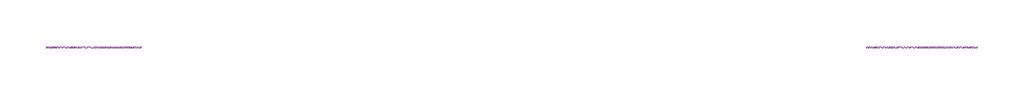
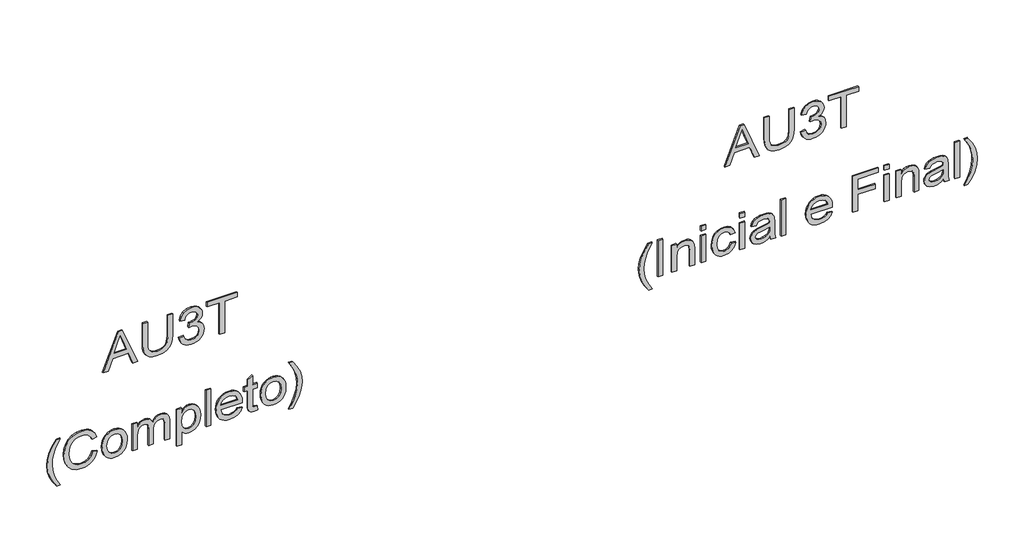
# One storey, part 3 of 14: 2 proxies.
"""IFC4 building model written with IfcOpenShell, lengths in millimetres."""

import ifcopenshell
import ifcopenshell.guid

model = None  # the IFC model being written
_history = None  # IfcOwnerHistory: only IFC2X3 demands one
_inside = {}  # id of a spatial element -> (the spatial element, [elements in it])
_under = {}  # id of a project, library or spatial element -> (it, [spatial elements below it])
_declared = {}  # id of a project -> (the project, [libraries it declares])
_typed = {}  # id of a type object -> (the type object, [elements of that type])
_made_of = {}  # id of a material, layer set ... -> (it, [elements and type objects made of it])


def new_model(schema):
    """Start an empty IFC model of exactly this schema.

    Asked for "IFC4X3", IfcOpenShell would pick the latest addendum, in which some entities
    have other attributes; the version numbers below select the first issue.
    IFC2X3 requires an IfcOwnerHistory on every rooted entity: one is made here for all.
    """
    global model, _history
    if schema == "IFC4X3":
        model = ifcopenshell.file(schema_version=(4, 3, 0, 0))
    else:
        model = ifcopenshell.file(schema=schema)
    _inside.clear()
    _under.clear()
    _declared.clear()
    _typed.clear()
    _made_of.clear()
    _history = None
    if model.schema == "IFC2X3":
        org = make("IfcOrganization", Name="unknown")
        user = make(
            "IfcPersonAndOrganization",
            ThePerson=make("IfcPerson", FamilyName="unknown"),
            TheOrganization=org,
        )
        app = make(
            "IfcApplication",
            ApplicationDeveloper=org,
            Version="unknown",
            ApplicationFullName="unknown",
            ApplicationIdentifier="unknown",
        )
        _history = make(
            "IfcOwnerHistory",
            OwningUser=user,
            OwningApplication=app,
            ChangeAction="ADDED",
            CreationDate=0,
        )
    return model


def make(cls, **values):
    """One entity of the class cls with the attributes given. An attribute that is None is left unset."""
    return model.create_entity(
        cls, **{name: value for name, value in values.items() if value is not None}
    )


def rooted(cls, **values):
    """An entity with a GlobalId (a new one), such as an element, a storey or a relation."""
    return make(cls, GlobalId=ifcopenshell.guid.new(), OwnerHistory=_history, **values)


def si_unit(unit_type, name, prefix=None):
    """IfcSIUnit, for example si_unit("LENGTHUNIT", "METRE", prefix="MILLI")."""
    return make("IfcSIUnit", UnitType=unit_type, Prefix=prefix, Name=name)


def assignment(units):
    """IfcUnitAssignment: the units of a project."""
    return None if units is None else make("IfcUnitAssignment", Units=units)


def point(xyz):
    """IfcCartesianPoint."""
    return None if xyz is None else make("IfcCartesianPoint", Coordinates=xyz)


def direction(xyz):
    """IfcDirection."""
    return None if xyz is None else make("IfcDirection", DirectionRatios=xyz)


def frame(location, z_axis=None, x_axis=None):
    """IfcAxis2Placement3D, a coordinate frame: its origin and axes. An axis left out is left unset."""
    return make(
        "IfcAxis2Placement3D",
        Location=point(location),
        Axis=direction(z_axis),
        RefDirection=direction(x_axis),
    )


def origin():
    """The frame at (0, 0, 0) with its axes left unset."""
    return frame((0.0, 0.0, 0.0))


def place(relative_to, where):
    """IfcLocalPlacement: puts the frame where relative to a parent placement (None: the world)."""
    return make(
        "IfcLocalPlacement", PlacementRelTo=relative_to, RelativePlacement=where
    )


def context(
    kind, dimensions, precision=None, world=None, true_north=None, identifier=None
):
    """IfcGeometricRepresentationContext, for example the 3D "Model" context."""
    return make(
        "IfcGeometricRepresentationContext",
        ContextIdentifier=identifier,
        ContextType=kind,
        CoordinateSpaceDimension=dimensions,
        Precision=precision,
        WorldCoordinateSystem=world,
        TrueNorth=true_north,
    )


def project(units=None, contexts=None):
    """IfcProject with its units and contexts."""
    return rooted(
        "IfcProject",
        Name="project",
        RepresentationContexts=contexts,
        UnitsInContext=assignment(units),
    )


def spatial(cls, under=None, at=None, **own):
    """A site, building, storey or space (cls), placed at a placement, below another one or the project."""
    s = rooted(cls, ObjectPlacement=at, **own)
    if under is not None:
        _under.setdefault(under.id(), (under, []))[1].append(s)
    return s


def polyline(points):
    """IfcPolyline through the points."""
    return make("IfcPolyline", Points=[point(p) for p in points])


def outline(outer, holes=None, kind="AREA"):
    """IfcArbitraryClosedProfileDef: a profile drawn as a closed curve; with holes, ...WithVoids."""
    if holes is None:
        return make("IfcArbitraryClosedProfileDef", ProfileType=kind, OuterCurve=outer)
    return make(
        "IfcArbitraryProfileDefWithVoids",
        ProfileType=kind,
        OuterCurve=outer,
        InnerCurves=holes,
    )


def extrude(swept, where, along, depth):
    """IfcExtrudedAreaSolid: the profile swept, set in the frame where, extruded along a direction by depth."""
    return make(
        "IfcExtrudedAreaSolid",
        SweptArea=swept,
        Position=where,
        ExtrudedDirection=direction(along),
        Depth=depth,
    )


def shape(context_of_items, identifier, shape_type, items):
    """IfcShapeRepresentation: the items that make up one representation, for example the "Body"."""
    return make(
        "IfcShapeRepresentation",
        ContextOfItems=context_of_items,
        RepresentationIdentifier=identifier,
        RepresentationType=shape_type,
        Items=items,
    )


def made_of(thing, what):
    """Note that an element or type object is made of a material, layer set ...; save() writes the relation."""
    if what is not None:
        _made_of.setdefault(what.id(), (what, []))[1].append(thing)
    return thing


def element(
    cls,
    number,
    at=None,
    inside=None,
    cuts=None,
    type_object=None,
    material=None,
    context=None,
    identifier="Body",
    shape_type=None,
    held_by="IfcProductDefinitionShape",
    body=None,
    shapes=None,
    **own,
):
    """One element of the class cls, such as IfcWall. Its Tag is "e" and its number.

    at: its placement. inside: the storey or other place that contains it. cuts: it is an
    opening in that element (IfcRelVoidsElement). A single representation is given by context,
    identifier, shape_type and body (its items); several are given by shapes. held_by: the class
    of the entity that holds the representations. save() writes the other relations.
    """
    e = rooted(cls, Tag="e%d" % number, ObjectPlacement=at, **own)
    if body is not None:
        shapes = [shape(context, identifier, shape_type, body)]
    if shapes is not None:
        e.Representation = make(held_by, Representations=shapes)
    if inside is not None:
        _inside.setdefault(inside.id(), (inside, []))[1].append(e)
    if cuts is not None:
        rooted(
            "IfcRelVoidsElement", RelatingBuildingElement=cuts, RelatedOpeningElement=e
        )
    if type_object is not None:
        _typed.setdefault(type_object.id(), (type_object, []))[1].append(e)
    return made_of(e, material)


def aggregate(whole, parts):
    """IfcRelAggregates: a whole, such as a stair, and the parts it consists of."""
    return rooted("IfcRelAggregates", RelatingObject=whole, RelatedObjects=parts)


def save(model, path):
    """Write the relations noted so far, then the file.

    IfcRelAggregates (storeys below a building ...), IfcRelContainedInSpatialStructure (elements
    in a storey), IfcRelDefinesByType, IfcRelAssociatesMaterial and IfcRelDeclares: one each for
    every whole, place, type object, material and project.
    """
    for whole, parts in _under.values():
        aggregate(whole, parts)
    for where, things in _inside.values():
        rooted(
            "IfcRelContainedInSpatialStructure",
            RelatedElements=things,
            RelatingStructure=where,
        )
    for kind, things in _typed.values():
        rooted("IfcRelDefinesByType", RelatedObjects=things, RelatingType=kind)
    for what, things in _made_of.values():
        rooted("IfcRelAssociatesMaterial", RelatedObjects=things, RelatingMaterial=what)
    for by, libraries in _declared.values():
        rooted("IfcRelDeclares", RelatingContext=by, RelatedDefinitions=libraries)
    model.write(path)


model = new_model("IFC4")

# Units and contexts
model_context = context("Model", 3, world=origin())
ifc_project = project(units=[si_unit("LENGTHUNIT", "METRE", prefix="MILLI")], contexts=[model_context])

# Site, building, storey
site = spatial("IfcSite", under=ifc_project)
building = spatial("IfcBuilding", under=site)
storey = spatial("IfcBuildingStorey", under=building, Name="04 - Marelli - Planta Baixa - Painéis de Vidro", Elevation=36000.0)

# Proxies
placement = place(None, origin())
element("IfcBuildingElementProxy", 1, Name="300mm Arial", ObjectType="300mm Arial", at=placement, inside=storey, context=model_context, shape_type="SweptSolid", body=[
    extrude(outline(polyline([(42065.9244535, 13310.1721595), (42065.9244535, 13349.9769914), (42160.1022443, 13384.4107462), (42160.1022443, 13508.5341313), (42065.9244535, 13543.0414625), (42065.9244535, 13582.8462944), (42367.293384, 13462.5488819), (42367.293384, 13430.469572), (42065.9244535, 13310.1721595)]), holes=[polyline([(42197.7733606, 13398.2431092), (42278.3395176, 13427.7472452), (42329.6222677, 13446.5092269), (42271.8647944, 13467.6256535), (42197.7733606, 13494.7753447), (42197.7733606, 13398.2431092)])]), frame((0.0, 8778.3159498, 0.0), z_axis=(0.0, 1.0, 0.0), x_axis=(0.0, 0.0, 1.0)), (0.0, 0.0, 1.0), 10.0),
    extrude(outline(polyline([(42367.293384, 13820.8659452), (42194.7567282, 13820.8659452), (42147.5942565, 13816.1018734), (42130.8556257, 13810.1467836), (42118.6787316, 13801.8096579), (42110.0197092, 13790.676629), (42103.8346931, 13776.3338297), (42098.8866803, 13738.0189199), (42101.3882779, 13713.8490728), (42108.8930706, 13693.7259277), (42121.0055853, 13678.293278), (42137.3303488, 13668.1949172), (42160.9023876, 13662.621505), (42194.7567282, 13660.7637009), (42367.293384, 13660.7637009), (42367.293384, 13623.0925846), (42193.4323531, 13623.0925846), (42150.6568741, 13625.9528671), (42117.9797559, 13634.5337147), (42093.6167707, 13649.8008175), (42075.783691, 13672.7198658), (42064.8575957, 13703.3000566), (42061.215564, 13741.5505871), (42065.4002217, 13780.6564432), (42077.9541948, 13811.4481662), (42097.176029, 13833.9809384), (42121.3642702, 13848.3099421), (42152.7170132, 13855.9802817), (42193.4323531, 13858.5370615), (42367.293384, 13858.5370615), (42367.293384, 13820.8659452)])), frame((0.0, 8778.3159498, 0.0), z_axis=(0.0, 1.0, 0.0), x_axis=(0.0, 0.0, 1.0)), (0.0, 0.0, 1.0), 10.0),
    extrude(outline(polyline([(42145.9755757, 13910.3348465), (42128.0827151, 13913.5860036), (42111.928097, 13919.660655), (42097.5117213, 13928.5588008), (42084.8335881, 13940.2804409), (42074.5007025, 13954.2599567), (42067.12007, 13969.9317297), (42062.6916905, 13987.2957599), (42061.215564, 14006.3520472), (42062.9446094, 14027.436284), (42068.1317455, 14046.6167316), (42076.7769724, 14063.8933898), (42088.88029, 14079.2662586), (42103.4668111, 14091.8846111), (42119.5616484, 14100.89772), (42137.1648019, 14106.3055853), (42156.2762716, 14108.1082071), (42183.2420218, 14104.5029635), (42205.2781533, 14093.6872329), (42221.5017493, 14076.2128381), (42231.029893, 14052.6316022), (42241.9008059, 14070.5842436), (42255.9722922, 14083.5336898), (42272.4901938, 14091.3695763), (42290.7003526, 14093.9815385), (42310.2440836, 14091.2316205), (42328.7025627, 14082.9818668), (42344.7238236, 14069.5357799), (42356.9558999, 14051.1968624), (42364.709013, 14029.4458394), (42367.293384, 14005.763436), (42362.0510656, 13972.8747856), (42346.3241103, 13945.8722472), (42321.0690113, 13926.1353782), (42287.2422618, 13915.043736), (42282.5333723, 13952.7148523), (42303.134764, 13959.3919105), (42317.8500438, 13971.1825285), (42326.6792117, 13987.332548), (42329.6222677, 14007.0878112), (42326.7068029, 14026.8062861), (42317.9604084, 14042.5516355), (42304.7626419, 14052.8707255), (42288.4930606, 14056.3104221), (42268.9585267, 14051.5647444), (42255.2365283, 14037.3277112), (42247.1247303, 14017.1493838), (42244.4207976, 13994.5798234), (42244.862256, 13988.5465586), (42207.1911397, 13984.3527039), (42211.311418, 14010.7666311), (42207.4578541, 14034.4582316), (42195.8971624, 14053.5880954), (42178.4503588, 14066.2248419), (42156.9384591, 14070.4370908), (42134.2769282, 14066.1880537), (42115.5885229, 14053.4409426), (42103.0621409, 14033.5017384), (42098.8866803, 14007.6764224), (42101.9217068, 13985.667882), (42111.0267861, 13968.7912955), (42127.0112588, 13956.4396575), (42150.6844652, 13948.0059628), (42145.9755757, 13910.3348465)])), frame((0.0, 8778.3159498, 0.0), z_axis=(0.0, 1.0, 0.0), x_axis=(0.0, 0.0, 1.0)), (0.0, 0.0, 1.0), 10.0),
    extrude(outline(polyline([(42065.9244535, 14230.5393351), (42065.9244535, 14268.2104514), (42329.6222677, 14268.2104514), (42329.6222677, 14367.0971317), (42367.293384, 14367.0971317), (42367.293384, 14131.6526548), (42329.6222677, 14131.6526548), (42329.6222677, 14230.5393351), (42065.9244535, 14230.5393351)])), frame((0.0, 8778.3159498, 0.0), z_axis=(0.0, 1.0, 0.0), x_axis=(0.0, 0.0, 1.0)), (0.0, 0.0, 1.0), 10.0),
    extrude(outline(polyline([(41249.3155348, 12945.0124911), (41249.3155348, 12973.2658283), (41297.5540614, 12944.4238799), (41345.8109821, 12923.8224882), (41394.0862969, 12911.4616532), (41442.3800058, 12907.3413748), (41480.2534572, 12909.7142137), (41517.9429677, 12916.8327303), (41575.7740173, 12938.0227332), (41635.4444769, 12973.2658283), (41635.4444769, 12945.0124911), (41584.934279, 12910.321219), (41534.2033518, 12886.0042191), (41489.4137189, 12873.7537486), (41442.600735, 12869.6702585), (41389.2210575, 12875.1333061), (41337.68079, 12891.522449), (41290.2791949, 12915.8210548), (41249.3155348, 12945.0124911)])), frame((0.0, 8778.3159498, 0.0), z_axis=(0.0, 1.0, 0.0), x_axis=(0.0, 0.0, 1.0)), (0.0, 0.0, 1.0), 10.0),
    extrude(outline(polyline([(41441.2027835, 13227.5458634), (41408.9395325, 13215.3597723), (41385.7261786, 13195.576918), (41371.7098746, 13169.3745229), (41367.0377732, 13137.9298094), (41370.4682728, 13110.9548621), (41380.7597717, 13085.9480835), (41397.9858461, 13065.0891743), (41422.2200725, 13050.5578355), (41452.3128197, 13042.0321703), (41487.1144565, 13039.1902819), (41515.5333406, 13041.5907119), (41543.1060961, 13048.792002), (41567.4966724, 13061.9161921), (41586.3690188, 13082.0853225), (41598.4539423, 13108.6647967), (41602.4822501, 13141.0200181), (41598.8494154, 13169.0894144), (41587.9509113, 13191.9348863), (41569.1061561, 13209.777163), (41541.6345681, 13222.8369739), (41550.6108888, 13260.5080902), (41588.4291579, 13243.8706269), (41603.751443, 13232.0685127), (41616.6824952, 13217.9441433), (41626.9510013, 13201.7642333), (41634.2856486, 13183.7954971), (41640.1533665, 13142.4915461), (41635.6192209, 13104.6364888), (41622.0167841, 13070.0923695), (41599.6771499, 13040.9653125), (41568.9314122, 13019.3614423), (41530.9843844, 13005.9797348), (41487.0408801, 13001.5191656), (41445.3782441, 13005.4647), (41406.4747231, 13017.3013032), (41373.3837376, 13036.6886843), (41349.1587083, 13063.2865526), (41334.3146698, 13097.9870218), (41329.3666569, 13141.6822057), (41331.0014325, 13164.1046133), (41335.9057594, 13184.7243992), (41344.0796375, 13203.5415632), (41355.5230668, 13220.5561055), (41370.0796975, 13235.4323337), (41387.5931797, 13247.8345554), (41408.0635135, 13257.7627708), (41431.4906988, 13265.2169797), (41441.2027835, 13227.5458634)])), frame((0.0, 8778.3159498, 0.0), z_axis=(0.0, 1.0, 0.0), x_axis=(0.0, 0.0, 1.0)), (0.0, 0.0, 1.0), 10.0),
    extrude(outline(polyline([(41444.7344506, 13302.888096), (41418.4124939, 13304.596448), (41395.3646869, 13309.7215041), (41375.5910296, 13318.2632642), (41359.0915221, 13330.2217283), (41346.0868936, 13344.9485044), (41336.7978732, 13361.7952005), (41331.224461, 13380.7618166), (41329.3666569, 13401.8483527), (41332.7419742, 13428.4370239), (41342.8679261, 13452.8735855), (41359.1007192, 13473.447386), (41380.7965599, 13488.4477744), (41409.767267, 13497.6080361), (41447.8246594, 13500.6614566), (41472.7049786, 13498.9347105), (41494.7388108, 13493.7544722), (41513.9261561, 13485.1207416), (41530.2670145, 13473.0335188), (41543.3199275, 13458.2239692), (41552.6434368, 13441.4232584), (41558.2375424, 13422.6313862), (41560.1022443, 13401.8483527), (41558.5709355, 13383.0219916), (41553.9770091, 13365.6855526), (41546.3204651, 13349.8390357), (41535.6013034, 13335.4824408), (41518.830483, 13321.222415), (41498.095734, 13311.0366822), (41473.3970566, 13304.9252426), (41444.7344506, 13302.888096)]), holes=[polyline([(41444.808027, 13340.5592123), (41478.8830968, 13344.918614), (41503.1173232, 13357.9968189), (41517.6026768, 13377.6785056), (41522.431128, 13401.8483527), (41517.5842827, 13425.7698795), (41503.0437468, 13445.4423692), (41479.0854319, 13458.6033475), (41445.9852494, 13462.9903403), (41411.1468245, 13458.6309387), (41386.535519, 13445.5527338), (41371.9122097, 13425.9078352), (41367.0377732, 13401.8483527), (41371.8846185, 13377.6785056), (41386.4251544, 13357.9968189), (41410.7145631, 13344.918614), (41444.808027, 13340.5592123)])]), frame((0.0, 8778.3159498, 0.0), z_axis=(0.0, 1.0, 0.0), x_axis=(0.0, 0.0, 1.0)), (0.0, 0.0, 1.0), 10.0),
    extrude(outline(polyline([(41334.0755465, 13543.0414625), (41334.0755465, 13580.7125788), (41445.6909438, 13580.7125788), (41471.6082304, 13582.1473186), (41490.6461236, 13586.4515379), (41504.368122, 13593.9563306), (41514.3377241, 13604.9927905), (41520.407777, 13618.365301), (41522.431128, 13632.8782457), (41519.3961015, 13649.9571673), (41510.2910222, 13661.4626767), (41495.0974958, 13668.0017792), (41473.7971282, 13670.18148), (41334.0755465, 13670.18148), (41334.0755465, 13707.8525963), (41459.008272, 13707.8525963), (41487.7214617, 13711.5406133), (41507.3479662, 13722.6046643), (41518.6603375, 13739.2421276), (41522.431128, 13759.6503812), (41520.9596, 13771.2110729), (41516.5450161, 13781.171478), (41509.7300021, 13788.915394), (41501.0571841, 13793.8266186), (41469.6032735, 13797.3214975), (41334.0755465, 13797.3214975), (41334.0755465, 13834.9926138), (41485.7900813, 13834.9926138), (41518.7615051, 13830.6791975), (41541.8920855, 13817.7389483), (41555.5497046, 13796.7972657), (41560.1022443, 13768.4795491), (41557.366122, 13748.9542122), (41549.1577549, 13731.3602558), (41535.4771432, 13715.6976799), (41516.3242869, 13701.9664844), (41534.7643719, 13693.7627159), (41548.5875379, 13681.2179399), (41557.2235677, 13664.4241268), (41560.1022443, 13643.4732472), (41557.27875, 13623.9203191), (41548.808267, 13606.6114712), (41535.702471, 13592.0433442), (41518.9730372, 13580.7125788), (41555.3933548, 13580.7125788), (41555.3933548, 13543.0414625), (41334.0755465, 13543.0414625)])), frame((0.0, 8778.3159498, 0.0), z_axis=(0.0, 1.0, 0.0), x_axis=(0.0, 0.0, 1.0)), (0.0, 0.0, 1.0), 10.0),
    extrude(outline(polyline([(41249.3155348, 13891.4992883), (41249.3155348, 13929.1704046), (41363.5061061, 13929.1704046), (41349.9956398, 13939.8113913), (41339.0419534, 13953.0459461), (41331.785481, 13968.5061869), (41329.3666569, 13985.8242319), (41332.9810975, 14010.2423993), (41343.8244193, 14033.4649502), (41361.4459669, 14053.4041544), (41385.3950848, 14067.9722814), (41414.2094421, 14076.8842227), (41446.4267078, 14079.8548698), (41476.7217901, 14077.2245136), (41504.4784866, 14069.3334448), (41527.9861461, 14056.2736339), (41545.5341173, 14038.1370516), (41556.4602125, 14015.8617968), (41560.1022443, 13990.3859686), (41557.4994792, 13971.2561049), (41549.6911838, 13955.2164499), (41536.6773583, 13941.4576633), (41518.4580024, 13929.1704046), (41555.3933548, 13929.1704046), (41555.3933548, 13891.4992883), (41249.3155348, 13891.4992883)]), holes=[polyline([(41442.968617, 13929.1704046), (41477.1356573, 13933.5206092), (41502.0872537, 13946.571223), (41517.3451594, 13965.2688254), (41522.431128, 13986.5599959), (41517.6486621, 14007.7683929), (41503.3012642, 14025.7762165), (41479.3521464, 14038.0818693), (41445.7645202, 14042.1837535), (41410.7237602, 14037.9807017), (41386.2412134, 14025.3715464), (41371.8386333, 14006.876279), (41367.0377732, 13985.0148915), (41371.6730864, 13963.5029918), (41385.5790258, 13945.467577), (41409.1970499, 13933.2446977), (41442.968617, 13929.1704046)])]), frame((0.0, 8778.3159498, 0.0), z_axis=(0.0, 1.0, 0.0), x_axis=(0.0, 0.0, 1.0)), (0.0, 0.0, 1.0), 10.0),
    extrude(outline(polyline([(14159.905992, 8778.3159498), (14122.2348757, 8778.3159498), (14122.2348757, 8788.3159498), (14159.905992, 8788.3159498), (14159.905992, 8778.3159498)])), frame((0.0, 0.0, 41334.0755465), z_axis=(0.0, 0.0, 1.0), x_axis=(1.0, 0.0, 0.0)), (0.0, 0.0, 1.0), 301.3689304),
    extrude(outline(polyline([(41400.0, 14371.3645628), (41385.1191733, 14360.8063496), (41374.9104479, 14347.0843511), (41369.0059419, 14330.1985676), (41367.0377732, 14310.1489988), (41371.2868103, 14283.4867512), (41384.0339214, 14261.6253637), (41404.7640718, 14246.4778225), (41432.9622268, 14239.9571141), (41432.9622268, 14409.2564083), (41443.1157698, 14409.4771375), (41469.3687487, 14407.6906106), (41492.5039277, 14402.3310298), (41512.5213067, 14393.3983951), (41529.4208859, 14380.8927065), (41542.8439802, 14365.5727207), (41552.4319047, 14348.1971942), (41558.1846594, 14328.766127), (41560.1022443, 14307.2795193), (41558.1800609, 14285.0778408), (41552.4135106, 14265.0466662), (41542.8025935, 14247.1859953), (41529.3473095, 14231.4958282), (41512.4109422, 14218.7165274), (41492.3567749, 14209.5884554), (41469.1848077, 14204.1116122), (41442.8950406, 14202.2859978), (41417.467497, 14204.0932181), (41395.0427901, 14209.514879), (41375.62092, 14218.5509805), (41359.2018867, 14231.2015227), (41346.1489737, 14246.9330765), (41336.8254644, 14265.2122131), (41331.2313588, 14286.0389326), (41329.3666569, 14309.4132348), (41333.6892704, 14345.0701972), (41346.6571107, 14373.7557958), (41367.4608375, 14394.991784), (41395.2911105, 14408.2999151), (41400.0, 14371.3645628)]), holes=[polyline([(41470.6333431, 14239.9571141), (41491.8693312, 14246.1467287), (41508.3412476, 14260.7424469), (41518.9086579, 14281.7393117), (41522.431128, 14307.1323665), (41518.0165441, 14334.7603043), (41504.7727922, 14356.7228594), (41490.535759, 14366.7108556), (41470.6333431, 14371.8060212), (41470.6333431, 14239.9571141)])]), frame((0.0, 8778.3159498, 0.0), z_axis=(0.0, 1.0, 0.0), x_axis=(0.0, 0.0, 1.0)), (0.0, 0.0, 1.0), 10.0),
    extrude(outline(polyline([(41365.4926689, 14527.199376), (41367.0377732, 14510.791839), (41369.576159, 14497.9527574), (41376.4555523, 14491.5148224), (41395.8797217, 14489.5282597), (41517.7222385, 14489.5282597), (41517.7222385, 14527.199376), (41555.3933548, 14527.199376), (41555.3933548, 14489.5282597), (41631.3241986, 14489.5282597), (41609.1777025, 14451.8571434), (41555.3933548, 14451.8571434), (41555.3933548, 14423.6038061), (41517.7222385, 14423.6038061), (41517.7222385, 14451.8571434), (41394.7760757, 14451.8571434), (41367.7919313, 14452.9975775), (41352.0281878, 14456.4188801), (41342.849532, 14462.6360858), (41335.6206508, 14472.1642295), (41330.9301554, 14485.6471046), (41329.3666569, 14503.7285047), (41332.9719005, 14531.9082655), (41365.4926689, 14527.199376)])), frame((0.0, 8778.3159498, 0.0), z_axis=(0.0, 1.0, 0.0), x_axis=(0.0, 0.0, 1.0)), (0.0, 0.0, 1.0), 10.0),
    extrude(outline(polyline([(41444.7344506, 14555.4527132), (41418.4124939, 14557.1610652), (41395.3646869, 14562.2861213), (41375.5910296, 14570.8278813), (41359.0915221, 14582.7863454), (41346.0868936, 14597.5131216), (41336.7978732, 14614.3598177), (41331.224461, 14633.3264338), (41329.3666569, 14654.4129699), (41332.7419742, 14681.0016411), (41342.8679261, 14705.4382026), (41359.1007192, 14726.0120032), (41380.7965599, 14741.0123916), (41409.767267, 14750.1726532), (41447.8246594, 14753.2260738), (41472.7049786, 14751.4993277), (41494.7388108, 14746.3190893), (41513.9261561, 14737.6853588), (41530.2670145, 14725.598136), (41543.3199275, 14710.7885864), (41552.6434368, 14693.9878755), (41558.2375424, 14675.1960034), (41560.1022443, 14654.4129699), (41558.5709355, 14635.5866088), (41553.9770091, 14618.2501698), (41546.3204651, 14602.4036528), (41535.6013034, 14588.047058), (41518.830483, 14573.7870321), (41498.095734, 14563.6012994), (41473.3970566, 14557.4898597), (41444.7344506, 14555.4527132)]), holes=[polyline([(41444.808027, 14593.1238295), (41478.8830968, 14597.4832312), (41503.1173232, 14610.5614361), (41517.6026768, 14630.2431228), (41522.431128, 14654.4129699), (41517.5842827, 14678.3344966), (41503.0437468, 14698.0069863), (41479.0854319, 14711.1679647), (41445.9852494, 14715.5549575), (41411.1468245, 14711.1955559), (41386.535519, 14698.1173509), (41371.9122097, 14678.4724524), (41367.0377732, 14654.4129699), (41371.8846185, 14630.2431228), (41386.4251544, 14610.5614361), (41410.7145631, 14597.4832312), (41444.808027, 14593.1238295)])]), frame((0.0, 8778.3159498, 0.0), z_axis=(0.0, 1.0, 0.0), x_axis=(0.0, 0.0, 1.0)), (0.0, 0.0, 1.0), 10.0),
    extrude(outline(polyline([(41249.3155348, 14805.0238587), (41290.2791949, 14834.0773393), (41337.68079, 14858.4035362), (41389.2210575, 14874.8754526), (41442.600735, 14880.3660913), (41489.4137189, 14876.2826012), (41534.2033518, 14864.0321308), (41584.934279, 14839.7151309), (41635.4444769, 14805.0238587), (41635.4444769, 14776.7705215), (41575.1854061, 14812.2343458), (41546.8400984, 14824.2089048), (41517.2807801, 14833.2036196), (41479.9775458, 14840.3221362), (41442.3800058, 14842.694975), (41394.0862969, 14838.5746967), (41345.8109821, 14826.2138617), (41297.5540614, 14805.6124699), (41249.3155348, 14776.7705215), (41249.3155348, 14805.0238587)])), frame((0.0, 8778.3159498, 0.0), z_axis=(0.0, 1.0, 0.0), x_axis=(0.0, 0.0, 1.0)), (0.0, 0.0, 1.0), 10.0),
])
element("IfcBuildingElementProxy", 2, Name="300mm Arial", ObjectType="300mm Arial", at=placement, inside=storey, context=model_context, shape_type="SweptSolid", body=[
    extrude(outline(polyline([(42065.9244535, 18215.9943688), (42065.9244535, 18255.7992006), (42160.1022443, 18290.2329554), (42160.1022443, 18414.3563406), (42065.9244535, 18448.8636717), (42065.9244535, 18488.6685036), (42367.293384, 18368.3710912), (42367.293384, 18336.2917812), (42065.9244535, 18215.9943688)]), holes=[polyline([(42197.7733606, 18304.0653184), (42278.3395176, 18333.5694544), (42329.6222677, 18352.3314362), (42271.8647944, 18373.4478627), (42197.7733606, 18400.5975539), (42197.7733606, 18304.0653184)])]), frame((0.0, 8778.3159498, 0.0), z_axis=(0.0, 1.0, 0.0), x_axis=(0.0, 0.0, 1.0)), (0.0, 0.0, 1.0), 10.0),
    extrude(outline(polyline([(42367.293384, 18726.6881545), (42194.7567282, 18726.6881545), (42147.5942565, 18721.9240826), (42130.8556257, 18715.9689928), (42118.6787316, 18707.6318671), (42110.0197092, 18696.4988382), (42103.8346931, 18682.156039), (42098.8866803, 18643.8411292), (42101.3882779, 18619.6712821), (42108.8930706, 18599.5481369), (42121.0055853, 18584.1154872), (42137.3303488, 18574.0171265), (42160.9023876, 18568.4437142), (42194.7567282, 18566.5859102), (42367.293384, 18566.5859102), (42367.293384, 18528.9147939), (42193.4323531, 18528.9147939), (42150.6568741, 18531.7750764), (42117.9797559, 18540.3559239), (42093.6167707, 18555.6230267), (42075.783691, 18578.542075), (42064.8575957, 18609.1222659), (42061.215564, 18647.3727963), (42065.4002217, 18686.4786524), (42077.9541948, 18717.2703754), (42097.176029, 18739.8031476), (42121.3642702, 18754.1321513), (42152.7170132, 18761.8024909), (42193.4323531, 18764.3592708), (42367.293384, 18764.3592708), (42367.293384, 18726.6881545)])), frame((0.0, 8778.3159498, 0.0), z_axis=(0.0, 1.0, 0.0), x_axis=(0.0, 0.0, 1.0)), (0.0, 0.0, 1.0), 10.0),
    extrude(outline(polyline([(42145.9755757, 18816.1570557), (42128.0827151, 18819.4082128), (42111.928097, 18825.4828643), (42097.5117213, 18834.38101), (42084.8335881, 18846.1026501), (42074.5007025, 18860.0821659), (42067.12007, 18875.7539389), (42062.6916905, 18893.1179691), (42061.215564, 18912.1742564), (42062.9446094, 18933.2584933), (42068.1317455, 18952.4389408), (42076.7769724, 18969.715599), (42088.88029, 18985.0884679), (42103.4668111, 18997.7068203), (42119.5616484, 19006.7199292), (42137.1648019, 19012.1277945), (42156.2762716, 19013.9304163), (42183.2420218, 19010.3251727), (42205.2781533, 18999.5094421), (42221.5017493, 18982.0350473), (42231.029893, 18958.4538114), (42241.9008059, 18976.4064528), (42255.9722922, 18989.355899), (42272.4901938, 18997.1917855), (42290.7003526, 18999.8037477), (42310.2440836, 18997.0538298), (42328.7025627, 18988.804076), (42344.7238236, 18975.3579891), (42356.9558999, 18957.0190716), (42364.709013, 18935.2680487), (42367.293384, 18911.5856452), (42362.0510656, 18878.6969949), (42346.3241103, 18851.6944564), (42321.0690113, 18831.9575874), (42287.2422618, 18820.8659452), (42282.5333723, 18858.5370615), (42303.134764, 18865.2141198), (42317.8500438, 18877.0047377), (42326.6792117, 18893.1547573), (42329.6222677, 18912.9100204), (42326.7068029, 18932.6284954), (42317.9604084, 18948.3738448), (42304.7626419, 18958.6929347), (42288.4930606, 18962.1326314), (42268.9585267, 18957.3869536), (42255.2365283, 18943.1499204), (42247.1247303, 18922.971593), (42244.4207976, 18900.4020326), (42244.862256, 18894.3687679), (42207.1911397, 18890.1749131), (42211.311418, 18916.5888404), (42207.4578541, 18940.2804409), (42195.8971624, 18959.4103046), (42178.4503588, 18972.0470512), (42156.9384591, 18976.2593), (42134.2769282, 18972.010263), (42115.5885229, 18959.2631518), (42103.0621409, 18939.3239477), (42098.8866803, 18913.4986316), (42101.9217068, 18891.4900913), (42111.0267861, 18874.6135047), (42127.0112588, 18862.2618667), (42150.6844652, 18853.828172), (42145.9755757, 18816.1570557)])), frame((0.0, 8778.3159498, 0.0), z_axis=(0.0, 1.0, 0.0), x_axis=(0.0, 0.0, 1.0)), (0.0, 0.0, 1.0), 10.0),
    extrude(outline(polyline([(42065.9244535, 19136.3615443), (42065.9244535, 19174.0326606), (42329.6222677, 19174.0326606), (42329.6222677, 19272.9193409), (42367.293384, 19272.9193409), (42367.293384, 19037.474864), (42329.6222677, 19037.474864), (42329.6222677, 19136.3615443), (42065.9244535, 19136.3615443)])), frame((0.0, 8778.3159498, 0.0), z_axis=(0.0, 1.0, 0.0), x_axis=(0.0, 0.0, 1.0)), (0.0, 0.0, 1.0), 10.0),
    extrude(outline(polyline([(41249.3155348, 17615.3902234), (41249.3155348, 17643.6435607), (41297.5540614, 17614.8016122), (41345.8109821, 17594.2002205), (41394.0862969, 17581.8393855), (41442.3800058, 17577.7191071), (41480.2534572, 17580.091946), (41517.9429677, 17587.2104626), (41575.7740173, 17608.4004655), (41635.4444769, 17643.6435607), (41635.4444769, 17615.3902234), (41584.934279, 17580.6989513), (41534.2033518, 17556.3819514), (41489.4137189, 17544.131481), (41442.600735, 17540.0479908), (41389.2210575, 17545.5110385), (41337.68079, 17561.9001813), (41290.2791949, 17586.1987871), (41249.3155348, 17615.3902234)])), frame((0.0, 8778.3159498, 0.0), z_axis=(0.0, 1.0, 0.0), x_axis=(0.0, 0.0, 1.0)), (0.0, 0.0, 1.0), 10.0),
    extrude(outline(polyline([(17728.4035724, 8778.3159498), (17690.732456, 8778.3159498), (17690.732456, 8788.3159498), (17728.4035724, 8788.3159498), (17728.4035724, 8778.3159498)])), frame((0.0, 0.0, 41334.0755465), z_axis=(0.0, 0.0, 1.0), x_axis=(1.0, 0.0, 0.0)), (0.0, 0.0, 1.0), 301.3689304),
    extrude(outline(polyline([(41334.0755465, 17799.0369154), (41334.0755465, 17836.7080317), (41451.5034793, 17836.7080317), (41486.2131456, 17841.003054), (41498.5877762, 17846.3718319), (41507.6422718, 17853.8881209), (41518.7339139, 17872.6960879), (41522.431128, 17894.7598106), (41520.7848561, 17908.6565529), (41515.8460403, 17920.6219148), (41508.1481095, 17929.9569205), (41498.2244927, 17935.962594), (41464.8943839, 17940.3036016), (41334.0755465, 17940.3036016), (41334.0755465, 17977.9747179), (41469.9711555, 17977.9747179), (41506.391473, 17975.9881551), (41534.0929872, 17964.6941779), (41544.6328064, 17954.5958171), (41552.9285454, 17940.4139662), (41558.3088196, 17923.4086209), (41560.1022443, 17904.8397772), (41557.8765582, 17883.8613065), (41551.1995, 17865.513192), (41540.0710697, 17849.7954337), (41524.4912672, 17836.7080317), (41555.3933548, 17836.7080317), (41555.3933548, 17799.0369154), (41334.0755465, 17799.0369154)])), frame((0.0, 8778.3159498, 0.0), z_axis=(0.0, 1.0, 0.0), x_axis=(0.0, 0.0, 1.0)), (0.0, 0.0, 1.0), 10.0),
    extrude(outline(polyline([(18067.4436191, 8778.3159498), (18029.7725028, 8778.3159498), (18029.7725028, 8788.3159498), (18067.4436191, 8788.3159498), (18067.4436191, 8778.3159498)])), frame((0.0, 0.0, 41597.7733606), z_axis=(0.0, 0.0, 1.0), x_axis=(1.0, 0.0, 0.0)), (0.0, 0.0, 1.0), 37.6711163),
    extrude(outline(polyline([(18067.4436191, 8778.3159498), (18029.7725028, 8778.3159498), (18029.7725028, 8788.3159498), (18067.4436191, 8788.3159498), (18067.4436191, 8778.3159498)])), frame((0.0, 0.0, 41334.0755465), z_axis=(0.0, 0.0, 1.0), x_axis=(1.0, 0.0, 0.0)), (0.0, 0.0, 1.0), 221.3178083),
    extrude(outline(polyline([(41414.1266686, 18265.2169797), (41393.2493654, 18258.7882419), (41378.5892679, 18247.1539738), (41369.9256469, 18231.160304), (41367.0377732, 18211.6533612), (41371.6638893, 18187.6214699), (41385.5422376, 18168.647956), (41409.6477053, 18156.3147121), (41444.9551798, 18152.2036308), (41479.7936048, 18156.4066826), (41503.816299, 18169.015838), (41517.7774208, 18188.3388398), (41522.431128, 18212.6834308), (41520.0674862, 18229.1737412), (41512.9765607, 18243.0336954), (41501.1951398, 18253.6746821), (41484.7600117, 18260.5080902), (41489.4689012, 18298.1792065), (41519.4512838, 18287.9244959), (41541.7081445, 18269.6683519), (41555.5037194, 18244.2201148), (41560.1022443, 18212.3891252), (41556.7545181, 18185.7452717), (41546.7113397, 18161.1431633), (41529.9635118, 18140.5785598), (41506.5018376, 18126.0472209), (41477.448357, 18117.4111911), (41443.9251102, 18114.5325145), (41417.8675687, 18116.2178739), (41395.024396, 18121.2739521), (41375.3955923, 18129.700749), (41358.9811575, 18141.4982647), (41346.0248135, 18156.0732895), (41336.7702821, 18172.8326137), (41331.2175632, 18191.7762372), (41329.3666569, 18212.90416), (41334.6733547, 18245.535293), (41350.593448, 18272.648196), (41375.9129264, 18292.3850651), (41409.4177791, 18302.888096), (41414.1266686, 18265.2169797)])), frame((0.0, 8778.3159498, 0.0), z_axis=(0.0, 1.0, 0.0), x_axis=(0.0, 0.0, 1.0)), (0.0, 0.0, 1.0), 10.0),
    extrude(outline(polyline([(18373.5214391, 8778.3159498), (18335.8503228, 8778.3159498), (18335.8503228, 8788.3159498), (18373.5214391, 8788.3159498), (18373.5214391, 8778.3159498)])), frame((0.0, 0.0, 41597.7733606), z_axis=(0.0, 0.0, 1.0), x_axis=(1.0, 0.0, 0.0)), (0.0, 0.0, 1.0), 37.6711163),
    extrude(outline(polyline([(18373.5214391, 8778.3159498), (18335.8503228, 8778.3159498), (18335.8503228, 8788.3159498), (18373.5214391, 8788.3159498), (18373.5214391, 8778.3159498)])), frame((0.0, 0.0, 41334.0755465), z_axis=(0.0, 0.0, 1.0), x_axis=(1.0, 0.0, 0.0)), (0.0, 0.0, 1.0), 221.3178083),
    extrude(outline(polyline([(41362.3288837, 18571.2947997), (41334.0755465, 18580.7125788), (41334.0755465, 18618.3836951), (41365.7501862, 18610.8789024), (41431.1963932, 18608.965916), (41478.0645594, 18608.965916), (41511.0267861, 18607.126506), (41525.1442577, 18602.5831634), (41536.5945848, 18595.5750114), (41545.856014, 18585.0076011), (41553.406792, 18569.7864835), (41558.4283812, 18549.598959), (41560.1022443, 18524.1323279), (41558.207652, 18497.5804449), (41552.5238752, 18474.4314704), (41543.3452194, 18455.5039417), (41530.9659903, 18441.6163964), (41514.7791825, 18431.8583265), (41494.1777908, 18425.319224), (41489.4689012, 18462.9903403), (41505.1314772, 18470.4767389), (41515.1838527, 18481.1637109), (41520.6193092, 18496.8354839), (41522.431128, 18519.2762856), (41519.7088012, 18543.5197091), (41511.5418209, 18560.9205274), (41500.5421493, 18568.7012316), (41483.7299421, 18571.2947997), (41475.3422326, 18571.0740705), (41468.3524747, 18544.2554731), (41462.3927864, 18505.7382282), (41456.7274037, 18473.1438834), (41444.3665686, 18446.7667443), (41434.8752131, 18436.1625458), (41422.7351073, 18427.8208216), (41408.5532564, 18422.4129563), (41392.9366657, 18420.6103345), (41367.6079903, 18425.3836034), (41347.2457219, 18439.70341), (41333.8364232, 18462.925961), (41329.3666569, 18494.4074627), (41331.224461, 18515.2755689), (41336.7978732, 18534.7641176), (41346.896234, 18553.2961731), (41362.3288837, 18571.2947997)]), holes=[polyline([(41437.6711163, 18571.2947997), (41427.0025384, 18571.0740705), (41410.0799667, 18569.5841484), (41397.8662844, 18565.1143822), (41386.0112871, 18555.0344155), (41376.0508821, 18540.5398649), (41369.2910505, 18522.6607999), (41367.0377732, 18502.4272902), (41369.0795183, 18483.3434117), (41375.2047535, 18469.5018516), (41384.3834093, 18461.086551), (41395.5854161, 18458.2814508), (41410.0799667, 18463.4317987), (41420.0127805, 18478.1102903), (41426.1196217, 18510.5206941), (41437.6711163, 18571.2947997)])]), frame((0.0, 8778.3159498, 0.0), z_axis=(0.0, 1.0, 0.0), x_axis=(0.0, 0.0, 1.0)), (0.0, 0.0, 1.0), 10.0),
    extrude(outline(polyline([(18698.4348172, 8778.3159498), (18660.7637009, 8778.3159498), (18660.7637009, 8788.3159498), (18698.4348172, 8788.3159498), (18698.4348172, 8778.3159498)])), frame((0.0, 0.0, 41334.0755465), z_axis=(0.0, 0.0, 1.0), x_axis=(1.0, 0.0, 0.0)), (0.0, 0.0, 1.0), 301.3689304),
    extrude(outline(polyline([(41400.0, 19027.6156265), (41385.1191733, 19017.0574133), (41374.9104479, 19003.3354148), (41369.0059419, 18986.4496313), (41367.0377732, 18966.4000625), (41371.2868103, 18939.7378149), (41384.0339214, 18917.8764274), (41404.7640718, 18902.7288862), (41432.9622268, 18896.2081778), (41432.9622268, 19065.507472), (41443.1157698, 19065.7282012), (41469.3687487, 19063.9416743), (41492.5039277, 19058.5820935), (41512.5213067, 19049.6494588), (41529.4208859, 19037.1437702), (41542.8439802, 19021.8237844), (41552.4319047, 19004.4482579), (41558.1846594, 18985.0171907), (41560.1022443, 18963.530583), (41558.1800609, 18941.3289046), (41552.4135106, 18921.2977299), (41542.8025935, 18903.437059), (41529.3473095, 18887.746892), (41512.4109422, 18874.9675911), (41492.3567749, 18865.8395191), (41469.1848077, 18860.3626759), (41442.8950406, 18858.5370615), (41417.467497, 18860.3442818), (41395.0427901, 18865.7659427), (41375.62092, 18874.8020443), (41359.2018867, 18887.4525864), (41346.1489737, 18903.1841402), (41336.8254644, 18921.4632768), (41331.2313588, 18942.2899963), (41329.3666569, 18965.6642985), (41333.6892704, 19001.3212609), (41346.6571107, 19030.0068595), (41367.4608375, 19051.2428477), (41395.2911105, 19064.5509788), (41400.0, 19027.6156265)]), holes=[polyline([(41470.6333431, 18896.2081778), (41491.8693312, 18902.3977924), (41508.3412476, 18916.9935106), (41518.9086579, 18937.9903754), (41522.431128, 18963.3834302), (41518.0165441, 18991.011368), (41504.7727922, 19012.9739231), (41490.535759, 19022.9619193), (41470.6333431, 19028.0570849), (41470.6333431, 18896.2081778)])]), frame((0.0, 8778.3159498, 0.0), z_axis=(0.0, 1.0, 0.0), x_axis=(0.0, 0.0, 1.0)), (0.0, 0.0, 1.0), 10.0),
    extrude(outline(polyline([(41334.0755465, 19225.8304455), (41334.0755465, 19263.5015618), (41470.6333431, 19263.5015618), (41470.6333431, 19404.768248), (41508.3044594, 19404.768248), (41508.3044594, 19263.5015618), (41597.7733606, 19263.5015618), (41597.7733606, 19428.3126957), (41635.4444769, 19428.3126957), (41635.4444769, 19225.8304455), (41334.0755465, 19225.8304455)])), frame((0.0, 8778.3159498, 0.0), z_axis=(0.0, 1.0, 0.0), x_axis=(0.0, 0.0, 1.0)), (0.0, 0.0, 1.0), 10.0),
    extrude(outline(polyline([(19513.0727074, 8778.3159498), (19475.4015911, 8778.3159498), (19475.4015911, 8788.3159498), (19513.0727074, 8788.3159498), (19513.0727074, 8778.3159498)])), frame((0.0, 0.0, 41597.7733606), z_axis=(0.0, 0.0, 1.0), x_axis=(1.0, 0.0, 0.0)), (0.0, 0.0, 1.0), 37.6711163),
    extrude(outline(polyline([(19513.0727074, 8778.3159498), (19475.4015911, 8778.3159498), (19475.4015911, 8788.3159498), (19513.0727074, 8788.3159498), (19513.0727074, 8778.3159498)])), frame((0.0, 0.0, 41334.0755465), z_axis=(0.0, 0.0, 1.0), x_axis=(1.0, 0.0, 0.0)), (0.0, 0.0, 1.0), 221.3178083),
    extrude(outline(polyline([(41334.0755465, 19569.5793818), (41334.0755465, 19607.2504981), (41451.5034793, 19607.2504981), (41486.2131456, 19611.5455204), (41498.5877762, 19616.9142983), (41507.6422718, 19624.4305873), (41518.7339139, 19643.2385543), (41522.431128, 19665.302277), (41520.7848561, 19679.1990193), (41515.8460403, 19691.1643812), (41508.1481095, 19700.4993868), (41498.2244927, 19706.5050604), (41464.8943839, 19710.846068), (41334.0755465, 19710.846068), (41334.0755465, 19748.5171843), (41469.9711555, 19748.5171843), (41506.391473, 19746.5306215), (41534.0929872, 19735.2366442), (41544.6328064, 19725.1382835), (41552.9285454, 19710.9564326), (41558.3088196, 19693.9510873), (41560.1022443, 19675.3822436), (41557.8765582, 19654.4037729), (41551.1995, 19636.0556583), (41540.0710697, 19620.3379001), (41524.4912672, 19607.2504981), (41555.3933548, 19607.2504981), (41555.3933548, 19569.5793818), (41334.0755465, 19569.5793818)])), frame((0.0, 8778.3159498, 0.0), z_axis=(0.0, 1.0, 0.0), x_axis=(0.0, 0.0, 1.0)), (0.0, 0.0, 1.0), 10.0),
    extrude(outline(polyline([(41362.3288837, 19941.5816553), (41334.0755465, 19950.9994344), (41334.0755465, 19988.6705507), (41365.7501862, 19981.165758), (41431.1963932, 19979.2527716), (41478.0645594, 19979.2527716), (41511.0267861, 19977.4133617), (41525.1442577, 19972.870019), (41536.5945848, 19965.861867), (41545.856014, 19955.2944567), (41553.406792, 19940.0733392), (41558.4283812, 19919.8858147), (41560.1022443, 19894.4191836), (41558.207652, 19867.8673006), (41552.5238752, 19844.718326), (41543.3452194, 19825.7907974), (41530.9659903, 19811.903252), (41514.7791825, 19802.1451821), (41494.1777908, 19795.6060797), (41489.4689012, 19833.277196), (41505.1314772, 19840.7635946), (41515.1838527, 19851.4505665), (41520.6193092, 19867.1223395), (41522.431128, 19889.5631412), (41519.7088012, 19913.8065647), (41511.5418209, 19931.2073831), (41500.5421493, 19938.9880873), (41483.7299421, 19941.5816553), (41475.3422326, 19941.3609261), (41468.3524747, 19914.5423287), (41462.3927864, 19876.0250838), (41456.7274037, 19843.430739), (41444.3665686, 19817.0536), (41434.8752131, 19806.4494015), (41422.7351073, 19798.1076772), (41408.5532564, 19792.6998119), (41392.9366657, 19790.8971901), (41367.6079903, 19795.670459), (41347.2457219, 19809.9902657), (41333.8364232, 19833.2128166), (41329.3666569, 19864.6943183), (41331.224461, 19885.5624245), (41336.7978732, 19905.0509732), (41346.896234, 19923.5830287), (41362.3288837, 19941.5816553)]), holes=[polyline([(41437.6711163, 19941.5816553), (41427.0025384, 19941.3609261), (41410.0799667, 19939.8710041), (41397.8662844, 19935.4012378), (41386.0112871, 19925.3212712), (41376.0508821, 19910.8267205), (41369.2910505, 19892.9476556), (41367.0377732, 19872.7141458), (41369.0795183, 19853.6302673), (41375.2047535, 19839.7887073), (41384.3834093, 19831.3734066), (41395.5854161, 19828.5683064), (41410.0799667, 19833.7186544), (41420.0127805, 19848.397146), (41426.1196217, 19880.8075497), (41437.6711163, 19941.5816553)])]), frame((0.0, 8778.3159498, 0.0), z_axis=(0.0, 1.0, 0.0), x_axis=(0.0, 0.0, 1.0)), (0.0, 0.0, 1.0), 10.0),
    extrude(outline(polyline([(20068.7216729, 8778.3159498), (20031.0505566, 8778.3159498), (20031.0505566, 8788.3159498), (20068.7216729, 8788.3159498), (20068.7216729, 8778.3159498)])), frame((0.0, 0.0, 41334.0755465), z_axis=(0.0, 0.0, 1.0), x_axis=(1.0, 0.0, 0.0)), (0.0, 0.0, 1.0), 301.3689304),
    extrude(outline(polyline([(41249.3155348, 20134.6461264), (41290.2791949, 20163.699607), (41337.68079, 20188.0258039), (41389.2210575, 20204.4977202), (41442.600735, 20209.988359), (41489.4137189, 20205.9048689), (41534.2033518, 20193.6543984), (41584.934279, 20169.3373986), (41635.4444769, 20134.6461264), (41635.4444769, 20106.3927892), (41575.1854061, 20141.8566135), (41546.8400984, 20153.8311725), (41517.2807801, 20162.8258872), (41479.9775458, 20169.9444038), (41442.3800058, 20172.3172427), (41394.0862969, 20168.1969644), (41345.8109821, 20155.8361293), (41297.5540614, 20135.2347376), (41249.3155348, 20106.3927892), (41249.3155348, 20134.6461264)])), frame((0.0, 8778.3159498, 0.0), z_axis=(0.0, 1.0, 0.0), x_axis=(0.0, 0.0, 1.0)), (0.0, 0.0, 1.0), 10.0),
])

save(model, "model.ifc")
